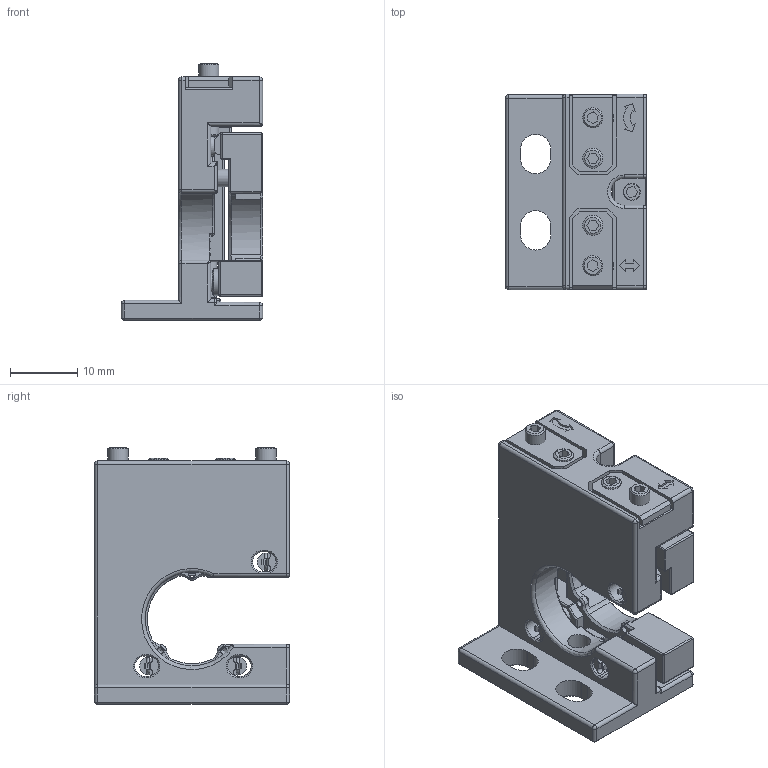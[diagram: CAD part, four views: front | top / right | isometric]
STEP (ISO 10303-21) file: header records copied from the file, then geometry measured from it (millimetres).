
FILE_DESCRIPTION(/* description */ (''),/* implementation_level */ '2;1');
FILE_NAME(/* name */ 'VMHV-127L-F-NM_STP.stp',/* time_stamp */ '2025-05-13T16:27:52+09:00',/* author */ ('e.nonaka'),/* organization */ (''),/* preprocessor_version */ 'ST-DEVELOPER v19.2',/* originating_system */ 'Autodesk Inventor 2023',/* authorisation */ '');
FILE_SCHEMA (('AUTOMOTIVE_DESIGN { 1 0 10303 214 3 1 1 }'));
Length unit declared in the file: millimetre
Products named in the file (6): VV12LFNM-M02-25001-TS01; MHV12.7L-M02-22001-S01; MHV12.7L-M02-22001-S02; MHV12.7L-M02-22001-S03; MHV12.7L-M03-22005　A; SBM-CER-3
Assembly tree (6 placements, depth 2):
  VV12LFNM-M02-25001-TS01
    MHV12.7L-M02-22001-S01
    MHV12.7L-M02-22001-S02
    MHV12.7L-M02-22001-S03
    MHV12.7L-M03-22005　A
    SBM-CER-3  x2
Bounding box: 21 x 29 x 38.2 mm (x, y, z)
Volume: 8594.1 mm3; surface area: 8125.7 mm2
Topology: 9 solids, 13 shells, 851 faces, 2120 edges, 1312 vertices
Faces by surface type: plane 431, cylinder 236, cone 72, sphere 43, bspline 39, torus 30
Full cylindrical faces by diameter (mm): 1 x3, 1.5 x2, 1.6 x1, 2 x2, 2.4 x2, 2.5 x3, 2.615 x1, 2.62 x1, 2.65 x1, 2.8 x4, 3 x7, 3.2 x2, 3.3 x1, 3.4 x1, 4 x1, 4.4 x2, 4.5 x4, 6 x2, 6.1 x2
Entity records: 26451 total; most frequent: CARTESIAN_POINT 5820, DIRECTION 4317, ORIENTED_EDGE 4196, EDGE_CURVE 2098, AXIS2_PLACEMENT_3D 1496, LINE 1325, VECTOR 1325, VERTEX_POINT 1310
